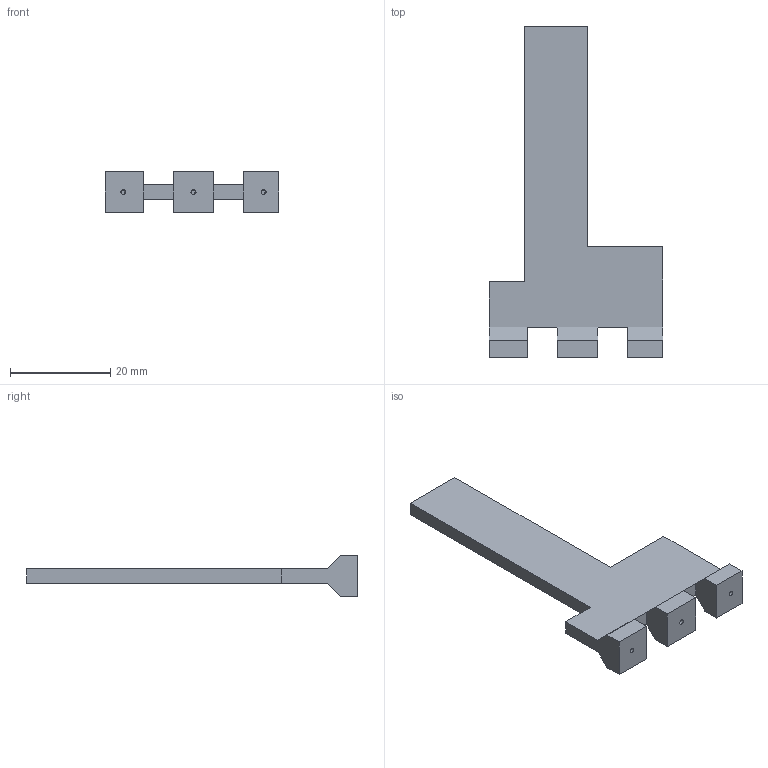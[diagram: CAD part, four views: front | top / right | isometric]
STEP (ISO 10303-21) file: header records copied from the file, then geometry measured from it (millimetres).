
FILE_DESCRIPTION(/* description */ (''),/* implementation_level */ '2;1');
FILE_NAME(/* name */ 'V:\Flow\Inventor\PEEK\Reaktoren\R4.stp',/* time_stamp */ '2020-05-22T11:46:45+02:00',/* author */ ('JN'),/* organization */ (''),/* preprocessor_version */ 'ST-DEVELOPER v17',/* originating_system */ 'Autodesk Inventor 2018',/* authorisation */ '');
FILE_SCHEMA (('AUTOMOTIVE_DESIGN { 1 0 10303 214 3 1 1 }'));
Length unit declared in the file: millimetre
Products named in the file (1): Reaktor_1_PEEK
Bounding box: 34.76 x 66.08 x 8 mm (x, y, z)
Volume: 3655.6 mm3; surface area: 4402.3 mm2
Topology: 1 solids, 1 shells, 78 faces, 217 edges, 140 vertices
Faces by surface type: plane 63, bspline 12, cylinder 3
Full cylindrical faces by diameter (mm): 1 x3
Entity records: 2716 total; most frequent: CARTESIAN_POINT 688, ORIENTED_EDGE 434, DIRECTION 375, EDGE_CURVE 217, LINE 193, VECTOR 193, VERTEX_POINT 140, AXIS2_PLACEMENT_3D 91
